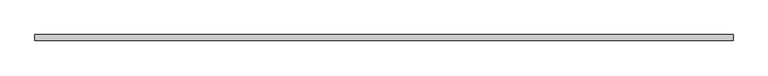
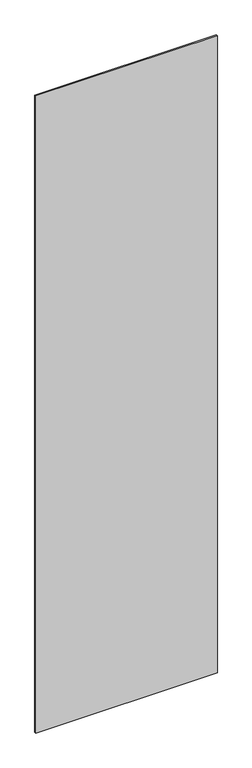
"""IFC4 building model written with IfcOpenShell, lengths in millimetres: plate geometry, システム パネル : 標準."""

from ifc_helpers import new_model, si_unit, origin, origin_with_axes, place, context, project, spatial, polyline, outline, extrude, source, transform, mapped, element, save


def plate_c5bdbefa(model_context):
    return source(origin(), model_context, "Body", "SweptSolid", [
        extrude(outline(polyline([(588.3204416, -5.0), (-588.3204416, -5.0), (-588.3204416, 5.0), (588.3204416, 5.0), (588.3204416, -5.0)])), origin_with_axes(), (0.0, 0.0, 1.0), 4360.0),
    ])


if __name__ == "__main__":
    model = new_model("IFC4")
    model_context = context("Model", 3, world=origin())
    ifc_project = project(units=[si_unit("LENGTHUNIT", "METRE", prefix="MILLI")], contexts=[model_context])
    site = spatial("IfcSite", under=ifc_project)
    building = spatial("IfcBuilding", under=site)
    placement = place(None, origin())
    plate_shape = plate_c5bdbefa(model_context)
    element("IfcPlate", 1, ObjectType="システム パネル : 標準", at=placement, inside=building, context=model_context, shape_type="MappedRepresentation", body=[
        mapped(plate_shape, transform((0.0, 0.0, 0.0), x_axis=(1.0, 0.0, 0.0), y_axis=(0.0, 1.0, 0.0), z_axis=(0.0, 0.0, 1.0))),
    ])
    save(model, "model.ifc")
